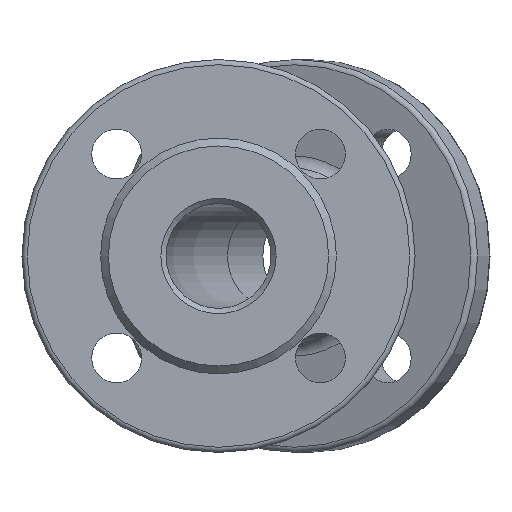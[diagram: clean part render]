
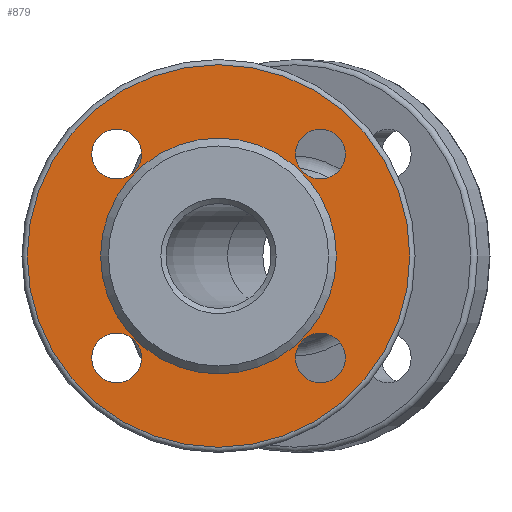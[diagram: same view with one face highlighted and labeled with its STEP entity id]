
A CAD part, left-side view. The second image highlights one B-rep face of the part: STEP entity #879.
In plain terms, the highlighted planar face has unit normal (-1, 0, 0).
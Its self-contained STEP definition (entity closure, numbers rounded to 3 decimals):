
#56 = VERTEX_POINT ( 'NONE', #1175 ) ;
#80 = DIRECTION ( 'NONE',  ( 0., 0., -1. ) ) ;
#120 = CARTESIAN_POINT ( 'NONE',  ( 3., 38.891, -38.891 ) ) ;
#130 = CARTESIAN_POINT ( 'NONE',  ( 3., 38.891, 29.391 ) ) ;
#133 = CIRCLE ( 'NONE', #1412, 45. ) ;
#158 = CARTESIAN_POINT ( 'NONE',  ( 3., 45., 0. ) ) ;
#194 = FACE_BOUND ( 'NONE', #1499, .T. ) ;
#226 = AXIS2_PLACEMENT_3D ( 'NONE', #1525, #2569, #80 ) ;
#466 = PLANE ( 'NONE',  #680 ) ;
#556 = ORIENTED_EDGE ( 'NONE', *, *, #1156, .F. ) ;
#624 = VERTEX_POINT ( 'NONE', #1734 ) ;
#680 = AXIS2_PLACEMENT_3D ( 'NONE', #158, #1587, #1313 ) ;
#761 = ORIENTED_EDGE ( 'NONE', *, *, #3106, .T. ) ;
#879 = ADVANCED_FACE ( 'NONE', ( #1860, #194, #3476, #1822, #2125, #2959 ), #466, .F. ) ;
#919 = DIRECTION ( 'NONE',  ( 0., 0., 1. ) ) ;
#939 = CARTESIAN_POINT ( 'NONE',  ( 3., 38.891, 38.891 ) ) ;
#955 = EDGE_CURVE ( 'NONE', #56, #56, #1146, .T. ) ;
#991 = DIRECTION ( 'NONE',  ( 1., 0., 0. ) ) ;
#1088 = DIRECTION ( 'NONE',  ( -1., 0., 0. ) ) ;
#1146 = CIRCLE ( 'NONE', #3175, 73. ) ;
#1156 = EDGE_CURVE ( 'NONE', #624, #624, #133, .T. ) ;
#1161 = CARTESIAN_POINT ( 'NONE',  ( 3., 0., 0. ) ) ;
#1175 = CARTESIAN_POINT ( 'NONE',  ( 3., 0., -73. ) ) ;
#1184 = EDGE_LOOP ( 'NONE', ( #556 ) ) ;
#1262 = EDGE_LOOP ( 'NONE', ( #761 ) ) ;
#1313 = DIRECTION ( 'NONE',  ( 0., 0., -1. ) ) ;
#1397 = ORIENTED_EDGE ( 'NONE', *, *, #955, .T. ) ;
#1412 = AXIS2_PLACEMENT_3D ( 'NONE', #1161, #2510, #919 ) ;
#1444 = EDGE_CURVE ( 'NONE', #2348, #2348, #2444, .T. ) ;
#1499 = EDGE_LOOP ( 'NONE', ( #1917 ) ) ;
#1525 = CARTESIAN_POINT ( 'NONE',  ( 3., -38.891, -38.891 ) ) ;
#1587 = DIRECTION ( 'NONE',  ( 1., 0., 0. ) ) ;
#1600 = AXIS2_PLACEMENT_3D ( 'NONE', #120, #3459, #1767 ) ;
#1605 = CARTESIAN_POINT ( 'NONE',  ( 3., 0., 0. ) ) ;
#1685 = CIRCLE ( 'NONE', #226, 9.5 ) ;
#1734 = CARTESIAN_POINT ( 'NONE',  ( 3., 0., 45. ) ) ;
#1767 = DIRECTION ( 'NONE',  ( 0., 0., -1. ) ) ;
#1822 = FACE_BOUND ( 'NONE', #3113, .T. ) ;
#1860 = FACE_OUTER_BOUND ( 'NONE', #1906, .T. ) ;
#1865 = CARTESIAN_POINT ( 'NONE',  ( 3., -38.891, 29.391 ) ) ;
#1883 = VERTEX_POINT ( 'NONE', #2875 ) ;
#1906 = EDGE_LOOP ( 'NONE', ( #1397 ) ) ;
#1917 = ORIENTED_EDGE ( 'NONE', *, *, #2767, .T. ) ;
#1941 = AXIS2_PLACEMENT_3D ( 'NONE', #939, #2332, #2046 ) ;
#2046 = DIRECTION ( 'NONE',  ( 0., 0., -1. ) ) ;
#2125 = FACE_BOUND ( 'NONE', #1262, .T. ) ;
#2170 = CIRCLE ( 'NONE', #1600, 9.5 ) ;
#2329 = VERTEX_POINT ( 'NONE', #130 ) ;
#2332 = DIRECTION ( 'NONE',  ( 1., 0., 0. ) ) ;
#2333 = CARTESIAN_POINT ( 'NONE',  ( 3., -38.891, 38.891 ) ) ;
#2348 = VERTEX_POINT ( 'NONE', #1865 ) ;
#2444 = CIRCLE ( 'NONE', #2912, 9.5 ) ;
#2491 = DIRECTION ( 'NONE',  ( 0., 0., -1. ) ) ;
#2499 = EDGE_CURVE ( 'NONE', #2999, #2999, #1685, .T. ) ;
#2510 = DIRECTION ( 'NONE',  ( -1., 0., 0. ) ) ;
#2522 = EDGE_LOOP ( 'NONE', ( #2626 ) ) ;
#2540 = ORIENTED_EDGE ( 'NONE', *, *, #1444, .T. ) ;
#2569 = DIRECTION ( 'NONE',  ( 1., 0., 0. ) ) ;
#2626 = ORIENTED_EDGE ( 'NONE', *, *, #2499, .T. ) ;
#2767 = EDGE_CURVE ( 'NONE', #1883, #1883, #2170, .T. ) ;
#2808 = CIRCLE ( 'NONE', #1941, 9.5 ) ;
#2875 = CARTESIAN_POINT ( 'NONE',  ( 3., 38.891, -48.391 ) ) ;
#2912 = AXIS2_PLACEMENT_3D ( 'NONE', #2333, #991, #3206 ) ;
#2959 = FACE_BOUND ( 'NONE', #1184, .T. ) ;
#2999 = VERTEX_POINT ( 'NONE', #3502 ) ;
#3106 = EDGE_CURVE ( 'NONE', #2329, #2329, #2808, .T. ) ;
#3113 = EDGE_LOOP ( 'NONE', ( #2540 ) ) ;
#3175 = AXIS2_PLACEMENT_3D ( 'NONE', #1605, #1088, #2491 ) ;
#3206 = DIRECTION ( 'NONE',  ( 0., 0., -1. ) ) ;
#3459 = DIRECTION ( 'NONE',  ( 1., 0., 0. ) ) ;
#3476 = FACE_BOUND ( 'NONE', #2522, .T. ) ;
#3502 = CARTESIAN_POINT ( 'NONE',  ( 3., -38.891, -48.391 ) ) ;
